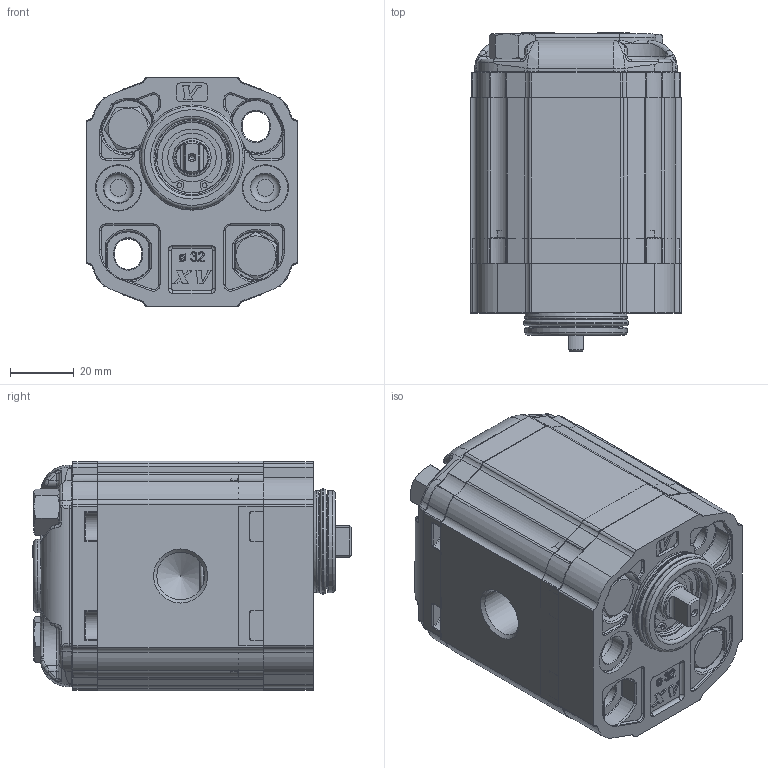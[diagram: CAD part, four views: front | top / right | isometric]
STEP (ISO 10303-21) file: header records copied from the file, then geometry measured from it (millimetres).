
FILE_DESCRIPTION( ( 'Unknown' ), '1' );
FILE_NAME( 'P:/montaggio_easy/output/STP/X1P2541DBBA.stp', 'Unknown', ( 'Unknown' ), ( 'Unknown' ), 'PSStep 14.0', 'Unknown', ' ' );
FILE_SCHEMA( ( 'AUTOMOTIVE_DESIGN { 1 0 10303 214 1 1 1 1 }' ) );
Length unit declared in the file: millimetre
Products named in the file (5): Assem1; X1P41; 1D; X1BBH52; XP119-A
Bounding box: 66 x 99.9 x 72 mm (x, y, z)
Surface area: 131869.4 mm2
Topology: 8 solids, 10 shells, 3654 faces, 9234 edges, 5846 vertices
Faces by surface type: plane 1636, cylinder 990, torus 366, extrusion 296, bspline 252, cone 106, sphere 8
Full cylindrical faces by diameter (mm): 1.447 x4, 1.5 x2, 2.5 x2, 3 x8, 8 x8, 8.5 x6, 9 x4, 9.3 x4, 10 x2, 10.5 x4, 11.965 x2, 12 x6, 12.923 x2, 14.5 x4, 14.95 x4, 15.115 x2, 15.181 x2, 19 x2, 20 x2, 22 x4, 22.2 x2, 23 x2, 24 x2, 29.4 x4, 32 x4, 32.96 x2
Entity records: 76912 total; most frequent: CARTESIAN_POINT 19423, ORIENTED_EDGE 8910, DIRECTION 8630, EDGE_CURVE 4455, AXIS2_PLACEMENT_3D 3001, VERTEX_POINT 2880, VECTOR 2628, LINE 2480
